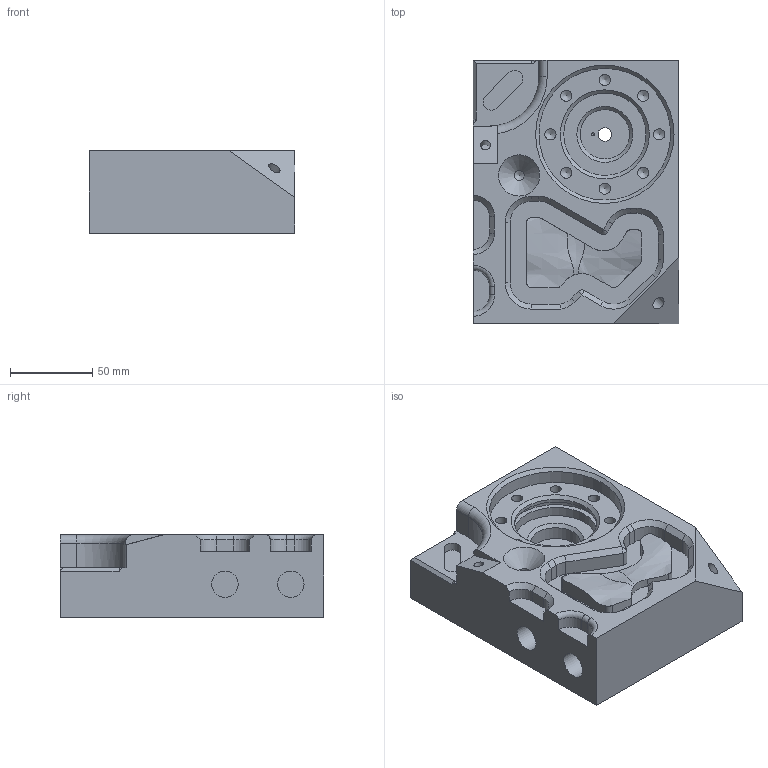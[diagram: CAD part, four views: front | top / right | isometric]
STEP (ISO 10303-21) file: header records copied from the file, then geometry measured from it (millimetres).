
FILE_DESCRIPTION(/* description */ (''),/* implementation_level */ '2;1');
FILE_NAME(/* name */ 'M_5504_2077_02_A-v2.stp',/* time_stamp */ '2013-08-16T08:56:27+01:00',/* author */ (''),/* organization */ (''),/* preprocessor_version */ 'ST-DEVELOPER v11',/* originating_system */ 'SIEMENS PLM Software NX 7.5',/* authorisation */ '');
FILE_SCHEMA (('CONFIG_CONTROL_DESIGN'));
Length unit declared in the file: millimetre
Products named in the file (1): se1300D2m4du
Bounding box: 125 x 160 x 50 mm (x, y, z)
Volume: 567083.6 mm3; surface area: 107220 mm2
Topology: 1 solids, 1 shells, 224 faces, 580 edges, 376 vertices
Faces by surface type: plane 95, cylinder 91, cone 32, torus 3, bspline 3
Full cylindrical faces by diameter (mm): 1.85 x1, 5.2 x2, 6 x1, 6.2 x1, 6.8 x8, 8 x1, 8.2 x1, 12 x1, 14 x1, 16 x4, 30 x1, 50 x2, 56 x1, 80 x1
Entity records: 6802 total; most frequent: CARTESIAN_POINT 1484, DIRECTION 1112, ORIENTED_EDGE 1004, EDGE_CURVE 502, AXIS2_PLACEMENT_3D 417, VERTEX_POINT 358, EDGE_LOOP 290, LINE 278
